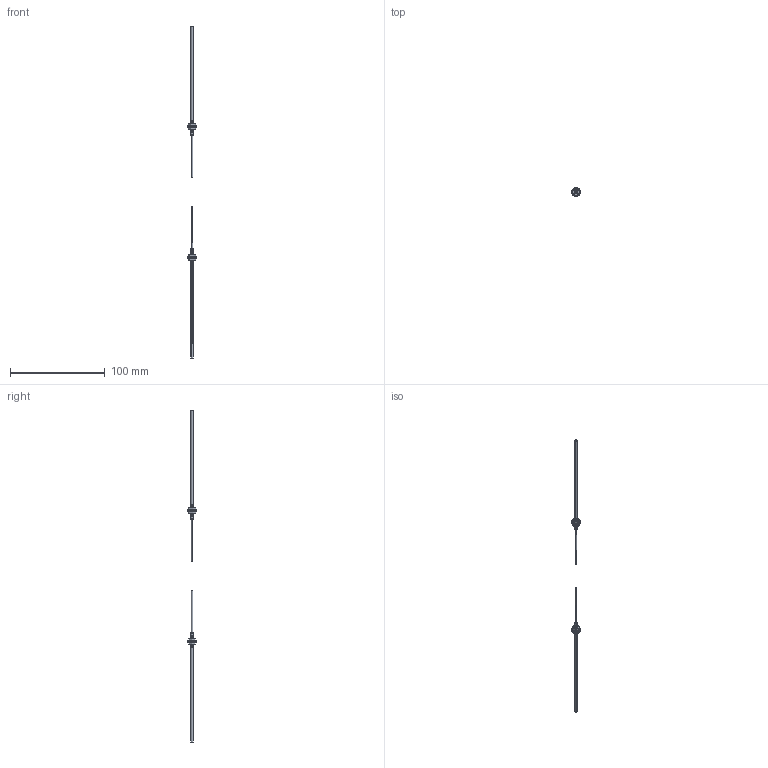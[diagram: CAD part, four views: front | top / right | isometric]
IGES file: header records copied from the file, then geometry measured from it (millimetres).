
Start section: SolidWorks IGES file using analytic representation for surfaces
Bounding box: 9 x 9 x 350 mm (x, y, z)
Surface area: 3386.9 mm2 (no closed solid volume)
Topology: 0 solids, 0 shells, 252 faces, 4608 edges, 4608 vertices
Faces by surface type: revolution 192, bspline 60
